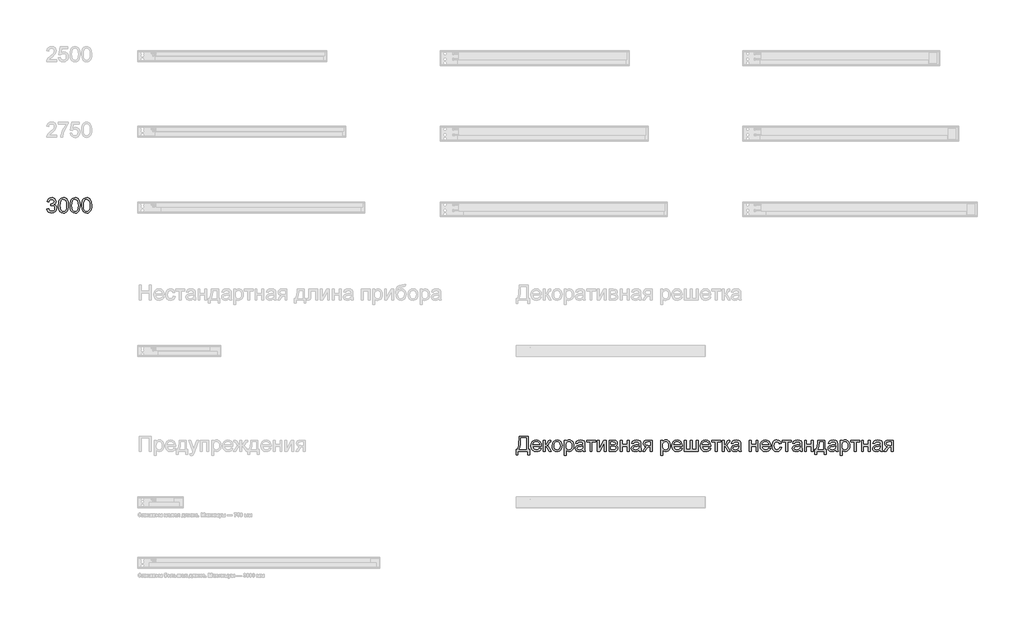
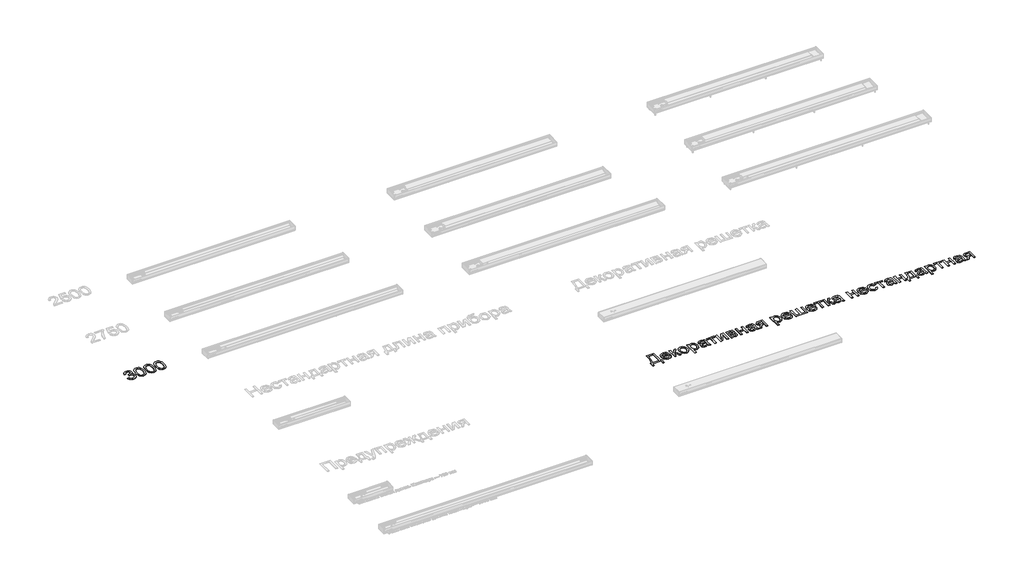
# One storey, part 2 of 17: 2 proxies.
"""IFC4 building model written with IfcOpenShell, lengths in millimetres."""

from ifc_helpers import new_model, si_unit, origin, origin_with_axes, place, context, project, spatial, polyline, outline, extrude, element, save

model = new_model("IFC4")

# Units and contexts
model_context = context("Model", 3, world=origin())
ifc_project = project(units=[si_unit("LENGTHUNIT", "METRE", prefix="MILLI")], contexts=[model_context])

# Site, building, storey
site = spatial("IfcSite", under=ifc_project)
building = spatial("IfcBuilding", under=site)
storey = spatial("IfcBuildingStorey", under=building, Name="Уровень 1", Elevation=0.0)

# Proxies
placement = place(None, origin())
element("IfcBuildingElementProxy", 1, Name="Текст модели 1", ObjectType="Текст модели 1", at=placement, inside=storey, context=model_context, shape_type="SweptSolid", body=[
    extrude(outline(polyline([(479.2731516, -6399.8750555), (504.3872291, -6396.7357958), (510.0096923, -6412.5179334), (518.2441176, -6423.1742485), (529.4951753, -6429.2443014), (544.1675355, -6431.2676524), (561.3844129, -6428.484012), (574.6772156, -6420.1330907), (583.1752897, -6407.6741538), (586.0079811, -6392.5664665), (583.1998152, -6378.2252001), (574.7753175, -6366.5939977), (562.022075, -6358.8868699), (546.2276747, -6356.3178273), (528.6183899, -6359.0646795), (531.414293, -6333.9506019), (535.4364695, -6334.2449075), (550.4828431, -6332.4422858), (563.9350614, -6327.0344204), (573.4264169, -6317.8864215), (576.590202, -6304.8633989), (574.2970709, -6294.0170114), (567.4176776, -6285.2185003), (556.920778, -6279.3875707), (543.7751281, -6277.4439275), (530.6049526, -6279.4059648), (519.8382729, -6285.2920767), (511.9778609, -6295.1022633), (507.5264888, -6308.8365244), (482.4124113, -6305.6972647), (489.8068394, -6283.1460984), (502.9647521, -6266.3093658), (520.9664444, -6255.8247289), (542.8922113, -6252.3298499), (558.6804802, -6254.052764), (573.1811622, -6259.221506), (585.4071072, -6267.3762236), (594.3711651, -6278.0570641), (599.871001, -6290.3627169), (601.7042796, -6303.3918709), (599.9629714, -6315.5319767), (594.7390471, -6326.5439111), (586.106083, -6335.924902), (574.1376554, -6343.1721773), (589.8584793, -6349.5242731), (601.5080758, -6360.3400037), (608.7185629, -6375.0307581), (611.1220586, -6393.0079249), (606.3150672, -6417.4843403), (591.894093, -6437.9385792), (570.1277416, -6451.7709423), (543.2846187, -6456.3817299), (519.004407, -6452.4453926), (499.2368812, -6440.6363805), (485.4903573, -6422.5733746), (479.2731516, -6399.8750555)])), origin_with_axes(), (0.0, 0.0, 1.0), 2.0),
    extrude(outline(polyline([(633.0968765, -6354.4048409), (634.9424178, -6322.2458231), (640.4790419, -6296.5983167), (649.6515663, -6277.0699141), (662.4048088, -6263.2682079), (678.8307398, -6255.0644394), (699.02133, -6252.3298499), (714.4968993, -6253.9485307), (728.3537878, -6258.8045731), (739.9420706, -6266.7079046), (748.611823, -6277.468453), (760.3840468, -6307.1933182), (764.9457836, -6354.4048409), (763.1186363, -6386.3799176), (757.6371946, -6411.9661104), (748.5198525, -6431.5129071), (735.7850041, -6445.3697956), (719.3222848, -6453.6287463), (699.02133, -6456.3817299), (672.9262338, -6451.599264), (653.109657, -6437.2518662), (644.3540655, -6422.1227191), (638.1000716, -6403.2718326), (633.0968765, -6354.4048409)]), holes=[polyline([(658.210954, -6354.3557899), (661.15401, -6393.8601849), (669.9831779, -6416.7240509), (683.1288278, -6427.631752), (699.02133, -6431.2676524), (714.9138322, -6427.6194893), (728.0594822, -6416.6749999), (736.8886501, -6393.7988712), (739.831706, -6354.3557899), (736.9867519, -6315.7404432), (728.4518896, -6292.6987676), (715.3307651, -6281.2576375), (698.7270244, -6277.4439275), (683.0062005, -6280.8039164), (670.3755853, -6290.883883), (661.2521118, -6315.3602985), (658.210954, -6354.3557899)])]), origin_with_axes(), (0.0, 0.0, 1.0), 2.0),
    extrude(outline(polyline([(786.9206014, -6354.4048409), (788.7661427, -6322.2458231), (794.3027668, -6296.5983167), (803.4752912, -6277.0699141), (816.2285337, -6263.2682079), (832.6544648, -6255.0644394), (852.8450549, -6252.3298499), (868.3206242, -6253.9485307), (882.1775127, -6258.8045731), (893.7657955, -6266.7079046), (902.4355479, -6277.468453), (914.2077717, -6307.1933182), (918.7695085, -6354.4048409), (916.9423612, -6386.3799176), (911.4609195, -6411.9661104), (902.3435774, -6431.5129071), (889.608729, -6445.3697956), (873.1460097, -6453.6287463), (852.8450549, -6456.3817299), (826.7499587, -6451.599264), (806.9333819, -6437.2518662), (798.1777905, -6422.1227191), (791.9237965, -6403.2718326), (786.9206014, -6354.4048409)]), holes=[polyline([(812.0346789, -6354.3557899), (814.9777349, -6393.8601849), (823.8069028, -6416.7240509), (836.9525527, -6427.631752), (852.8450549, -6431.2676524), (868.7375571, -6427.6194893), (881.8832071, -6416.6749999), (890.712375, -6393.7988712), (893.6554309, -6354.3557899), (890.8104768, -6315.7404432), (882.2756145, -6292.6987676), (869.1544901, -6281.2576375), (852.5507493, -6277.4439275), (836.8299254, -6280.8039164), (824.1993102, -6290.883883), (815.0758368, -6315.3602985), (812.0346789, -6354.3557899)])]), origin_with_axes(), (0.0, 0.0, 1.0), 2.0),
    extrude(outline(polyline([(940.7443263, -6354.4048409), (942.5898677, -6322.2458231), (948.1264917, -6296.5983167), (957.2990161, -6277.0699141), (970.0522586, -6263.2682079), (986.4781897, -6255.0644394), (1006.6687799, -6252.3298499), (1022.1443491, -6253.9485307), (1036.0012376, -6258.8045731), (1047.5895204, -6266.7079046), (1056.2592728, -6277.468453), (1068.0314966, -6307.1933182), (1072.5932334, -6354.4048409), (1070.7660861, -6386.3799176), (1065.2846444, -6411.9661104), (1056.1673023, -6431.5129071), (1043.4324539, -6445.3697956), (1026.9697346, -6453.6287463), (1006.6687799, -6456.3817299), (980.5736837, -6451.599264), (960.7571069, -6437.2518662), (952.0015154, -6422.1227191), (945.7475214, -6403.2718326), (940.7443263, -6354.4048409)]), holes=[polyline([(965.8584039, -6354.3557899), (968.8014598, -6393.8601849), (977.6306277, -6416.7240509), (990.7762777, -6427.631752), (1006.6687799, -6431.2676524), (1022.561282, -6427.6194893), (1035.706932, -6416.6749999), (1044.5360999, -6393.7988712), (1047.4791558, -6354.3557899), (1044.6342018, -6315.7404432), (1036.0993395, -6292.6987676), (1022.978215, -6281.2576375), (1006.3744743, -6277.4439275), (990.6536503, -6280.8039164), (978.0230352, -6290.883883), (968.8995617, -6315.3602985), (965.8584039, -6354.3557899)])]), origin_with_axes(), (0.0, 0.0, 1.0), 2.0),
])
element("IfcBuildingElementProxy", 2, Name="Текст модели 1", ObjectType="Текст модели 1", at=placement, inside=storey, context=model_context, shape_type="SweptSolid", body=[
    extrude(outline(polyline([(6722.8213885, -9407.3298499), (6842.1132568, -9407.3298499), (6842.1132568, -9583.1283927), (6860.9488149, -9583.1283927), (6860.9488149, -9655.3313656), (6835.8347374, -9655.3313656), (6835.8347374, -9608.2424702), (6707.12509, -9608.2424702), (6707.12509, -9655.3313656), (6682.0110125, -9655.3313656), (6682.0110125, -9583.1283927), (6697.7073109, -9583.1283927), (6708.6947198, -9560.3473002), (6716.5428691, -9528.3017127), (6721.2517586, -9486.9916303), (6722.8213885, -9436.417053), (6722.8213885, -9407.3298499)]), holes=[polyline([(6816.9991792, -9432.4439275), (6747.935466, -9432.4439275), (6747.935466, -9442.5484196), (6742.834169, -9511.3668782), (6735.2803254, -9551.1349219), (6722.8213885, -9583.1283927), (6816.9991792, -9583.1283927), (6816.9991792, -9432.4439275)])]), origin_with_axes(), (0.0, 0.0, 1.0), 2.0),
    extrude(outline(polyline([(6992.5034164, -9564.2928346), (7017.1269846, -9567.4320942), (7008.2548972, -9585.9856095), (6994.0975717, -9599.8547608), (6974.9738393, -9608.4999876), (6951.2025311, -9611.3817299), (6921.7351833, -9606.4091916), (6899.0613896, -9591.4915767), (6884.6036272, -9567.5976411), (6879.7843731, -9535.6961408), (6884.6526781, -9502.7216513), (6899.2575933, -9478.0612949), (6921.6248187, -9462.6838275), (6949.780054, -9457.558005), (6977.058504, -9462.6715648), (6998.8555122, -9478.012244), (7013.1477277, -9502.6235494), (7017.9117995, -9535.548988), (7017.7646467, -9542.3180167), (6904.8984506, -9542.3180167), (6909.2455895, -9561.1167867), (6919.3439503, -9574.936887), (6933.9182087, -9583.434961), (6951.6930404, -9586.2676524), (6976.3166086, -9581.0192026), (6985.4646076, -9574.2133857), (6992.5034164, -9564.2928346)]), holes=[polyline([(6904.8984506, -9517.2039392), (6992.797722, -9517.2039392), (6989.4009449, -9503.9356619), (6982.7422808, -9494.4443064), (6968.1005774, -9485.6151385), (6949.6819522, -9482.6720826), (6932.753249, -9485.020396), (6918.7553391, -9492.0653362), (6909.0248603, -9503.0466137), (6904.8984506, -9517.2039392)])]), origin_with_axes(), (0.0, 0.0, 1.0), 2.0),
    extrude(outline(polyline([(7043.0258771, -9460.6972647), (7068.1399546, -9460.6972647), (7068.1399546, -9523.4824586), (7084.9644245, -9518.9697728), (7098.7477366, -9492.6784728), (7110.2011294, -9469.9924165), (7120.3056215, -9462.6102511), (7138.6751958, -9460.6972647), (7143.4821872, -9460.6972647), (7143.4821872, -9485.9584951), (7136.7131585, -9485.8113423), (7124.4504253, -9488.4600926), (7115.8174612, -9504.9902569), (7105.6884436, -9522.8693219), (7091.4881986, -9531.6249134), (7107.3316498, -9541.3983117), (7122.8807955, -9561.9874407), (7149.7607066, -9608.2424702), (7121.2130638, -9608.2424702), (7094.8727129, -9562.9684594), (7081.6289611, -9543.8140702), (7068.1399546, -9539.178757), (7068.1399546, -9608.2424702), (7043.0258771, -9608.2424702), (7043.0258771, -9460.6972647)])), origin_with_axes(), (0.0, 0.0, 1.0), 2.0),
    extrude(outline(polyline([(7159.1784857, -9534.4698675), (7164.6108765, -9498.8956785), (7171.401365, -9485.0725126), (7180.9080489, -9473.8919656), (7201.0434567, -9461.6414952), (7225.1519901, -9457.558005), (7251.5352606, -9462.5305433), (7272.6087675, -9477.4481582), (7286.4227364, -9501.1336274), (7291.0273927, -9532.4097283), (7288.991779, -9557.7813232), (7282.8849379, -9577.095128), (7272.884679, -9591.5590218), (7259.168812, -9602.3808838), (7242.8777709, -9609.1315184), (7225.1519901, -9611.3817299), (7198.4498887, -9606.4275857), (7177.4009072, -9591.5651531), (7163.734091, -9567.3830433), (7159.1784857, -9534.4698675)]), holes=[polyline([(7184.2925632, -9534.4208165), (7187.198831, -9557.1497925), (7195.9176343, -9573.3427316), (7209.0387588, -9583.0364222), (7225.1519901, -9586.2676524), (7241.1916451, -9583.0180281), (7254.2882442, -9573.2691552), (7263.0070474, -9556.8616183), (7265.9133152, -9533.6360016), (7262.9886533, -9511.5692133), (7254.2146678, -9495.5970033), (7241.0996746, -9485.9033128), (7225.1519901, -9482.6720826), (7209.0387588, -9485.89105), (7195.9176343, -9495.5479524), (7187.198831, -9511.7041033), (7184.2925632, -9534.4208165)])]), origin_with_axes(), (0.0, 0.0, 1.0), 2.0),
    extrude(outline(polyline([(7319.28073, -9664.7491447), (7319.28073, -9460.6972647), (7344.3948075, -9460.6972647), (7344.3948075, -9485.3208329), (7361.7588377, -9464.498712), (7372.451941, -9459.2931818), (7385.2051835, -9457.558005), (7402.189069, -9459.9860262), (7417.0392388, -9467.2700897), (7429.1302937, -9478.9687371), (7437.8368343, -9494.6405101), (7443.0975468, -9513.1449745), (7444.8511177, -9533.341696), (7442.8706863, -9554.8198732), (7436.929392, -9574.0294447), (7427.2173074, -9589.9955233), (7413.9245046, -9601.7432217), (7398.442804, -9608.9721029), (7382.1640257, -9611.3817299), (7370.6186624, -9609.7691805), (7360.3118352, -9604.9315323), (7344.3948075, -9588.6220972), (7344.3948075, -9664.7491447), (7319.28073, -9664.7491447)]), holes=[polyline([(7344.3948075, -9535.6470899), (7347.1110029, -9558.161468), (7355.2595891, -9573.9068174), (7367.283199, -9583.1774436), (7381.6244654, -9586.2676524), (7396.1987238, -9583.067079), (7408.528902, -9573.465359), (7416.9350056, -9557.1436611), (7419.7370401, -9533.7831544), (7417.0024506, -9511.3914037), (7408.7986821, -9495.4253251), (7396.7934664, -9485.8603932), (7382.654535, -9482.6720826), (7368.4604214, -9486.0627283), (7355.9953531, -9496.2346654), (7347.2949439, -9512.869063), (7344.3948075, -9535.6470899)])]), origin_with_axes(), (0.0, 0.0, 1.0), 2.0),
    extrude(outline(polyline([(7567.2822457, -9589.4069121), (7542.9284576, -9606.4275857), (7516.024021, -9611.3817299), (7495.0363532, -9608.4018858), (7479.5546525, -9599.4623533), (7470.0081148, -9585.8875077), (7466.8259355, -9569.0017241), (7471.6329269, -9549.1360964), (7484.2635421, -9534.7151221), (7501.8483014, -9526.4745655), (7523.5778646, -9522.6976436), (7567.1350929, -9514.0646795), (7567.2822457, -9508.4728732), (7565.5532003, -9497.264735), (7560.3660641, -9489.9316206), (7548.7655186, -9484.4869671), (7532.6032362, -9482.6720826), (7517.6427018, -9483.8799618), (7507.1948531, -9487.5035994), (7500.0702051, -9494.2051831), (7495.0792727, -9504.6469004), (7469.9651952, -9501.5076407), (7480.8299768, -9476.9821744), (7490.0883403, -9468.7293549), (7502.7066928, -9462.6102511), (7535.8405978, -9457.558005), (7566.2767015, -9462.0216399), (7583.4690534, -9473.229778), (7591.1700499, -9490.2749771), (7592.3963232, -9512.249795), (7592.3963232, -9543.4952391), (7593.6716474, -9587.1260437), (7598.6748426, -9608.2424702), (7573.560765, -9608.2424702), (7567.2822457, -9589.4069121)]), holes=[polyline([(7567.2822457, -9539.178757), (7526.7661753, -9546.8797535), (7505.1592394, -9550.9509809), (7495.3735783, -9557.5728568), (7491.940013, -9567.2358905), (7493.8100799, -9574.703895), (7499.4202803, -9580.8229989), (7508.647987, -9584.906489), (7521.3705727, -9586.2676524), (7534.8595791, -9584.7654676), (7546.7789558, -9580.2589131), (7563.1619673, -9565.7153116), (7567.1350929, -9546.2911423), (7567.2822457, -9539.178757)])]), origin_with_axes(), (0.0, 0.0, 1.0), 2.0),
    extrude(outline(polyline([(7614.371141, -9460.6972647), (7733.6630093, -9460.6972647), (7733.6630093, -9485.8113423), (7686.574114, -9485.8113423), (7686.574114, -9608.2424702), (7661.4600364, -9608.2424702), (7661.4600364, -9485.8113423), (7614.371141, -9485.8113423), (7614.371141, -9460.6972647)])), origin_with_axes(), (0.0, 0.0, 1.0), 2.0),
    extrude(outline(polyline([(7755.6378272, -9460.6972647), (7780.7519047, -9460.6972647), (7780.7519047, -9573.2201043), (7842.457978, -9460.6972647), (7874.9296955, -9460.6972647), (7874.9296955, -9608.2424702), (7849.815618, -9608.2424702), (7849.815618, -9496.4063437), (7788.5019521, -9608.2424702), (7755.6378272, -9608.2424702), (7755.6378272, -9460.6972647)])), origin_with_axes(), (0.0, 0.0, 1.0), 2.0),
    extrude(outline(polyline([(7912.6008118, -9460.6972647), (7967.9302639, -9460.6972647), (7998.2682657, -9464.0572536), (8015.3379903, -9476.3690377), (8020.6906733, -9486.2098811), (8022.474901, -9497.8288208), (8018.1584189, -9515.2664273), (8005.1599218, -9527.7008388), (8014.4550735, -9532.9186317), (8022.0334426, -9541.3124726), (8027.073426, -9552.2201737), (8028.7534204, -9564.9795476), (8024.498252, -9584.1216741), (8014.3814971, -9597.5984179), (7998.3663676, -9605.5814571), (7976.4160752, -9608.2424702), (7912.6008118, -9608.2424702), (7912.6008118, -9460.6972647)]), holes=[polyline([(7937.7148893, -9517.2039392), (7962.5346613, -9517.2039392), (7983.0134257, -9515.9286149), (7992.970765, -9510.8273179), (7997.3608235, -9501.6057426), (7995.4355744, -9494.1132126), (7989.6598271, -9489.2939585), (7963.3194762, -9485.8113423), (7937.7148893, -9485.8113423), (7937.7148893, -9517.2039392)]), polyline([(7937.7148893, -9583.1283927), (7968.5188751, -9583.1283927), (7985.3065568, -9581.9940899), (7995.8402446, -9578.5911814), (8001.4933646, -9572.4046326), (8003.6393429, -9562.9194084), (7999.3473863, -9550.8283535), (7988.1637736, -9543.7895447), (7966.0663284, -9542.3180167), (7937.7148893, -9542.3180167), (7937.7148893, -9583.1283927)])]), origin_with_axes(), (0.0, 0.0, 1.0), 2.0),
    extrude(outline(polyline([(8060.1460173, -9460.6972647), (8085.2600949, -9460.6972647), (8085.2600949, -9517.2039392), (8151.1845484, -9517.2039392), (8151.1845484, -9460.6972647), (8176.2986259, -9460.6972647), (8176.2986259, -9608.2424702), (8151.1845484, -9608.2424702), (8151.1845484, -9542.3180167), (8085.2600949, -9542.3180167), (8085.2600949, -9608.2424702), (8060.1460173, -9608.2424702), (8060.1460173, -9460.6972647)])), origin_with_axes(), (0.0, 0.0, 1.0), 2.0),
    extrude(outline(polyline([(8308.147533, -9589.4069121), (8283.7937449, -9606.4275857), (8256.8893083, -9611.3817299), (8235.9016405, -9608.4018858), (8220.4199399, -9599.4623533), (8210.8734021, -9585.8875077), (8207.6912229, -9569.0017241), (8212.4982143, -9549.1360964), (8225.1288294, -9534.7151221), (8242.7135888, -9526.4745655), (8264.443152, -9522.6976436), (8308.0003802, -9514.0646795), (8308.147533, -9508.4728732), (8306.4184876, -9497.264735), (8301.2313515, -9489.9316206), (8289.6308059, -9484.4869671), (8273.4685236, -9482.6720826), (8258.5079891, -9483.8799618), (8248.0601405, -9487.5035994), (8240.9354925, -9494.2051831), (8235.9445601, -9504.6469004), (8210.8304826, -9501.5076407), (8221.6952641, -9476.9821744), (8230.9536277, -9468.7293549), (8243.5719801, -9462.6102511), (8276.7058852, -9457.558005), (8307.1419889, -9462.0216399), (8324.3343408, -9473.229778), (8332.0353372, -9490.2749771), (8333.2616105, -9512.249795), (8333.2616105, -9543.4952391), (8334.5369348, -9587.1260437), (8339.5401299, -9608.2424702), (8314.4260524, -9608.2424702), (8308.147533, -9589.4069121)]), holes=[polyline([(8308.147533, -9539.178757), (8267.6314626, -9546.8797535), (8246.0245268, -9550.9509809), (8236.2388657, -9557.5728568), (8232.8053004, -9567.2358905), (8234.6753672, -9574.703895), (8240.2855676, -9580.8229989), (8249.5132743, -9584.906489), (8262.23586, -9586.2676524), (8275.7248665, -9584.7654676), (8287.6442431, -9580.2589131), (8304.0272547, -9565.7153116), (8308.0003802, -9546.2911423), (8308.147533, -9539.178757)])]), origin_with_axes(), (0.0, 0.0, 1.0), 2.0),
    extrude(outline(polyline([(8480.8068161, -9460.6972647), (8480.8068161, -9608.2424702), (8455.6927385, -9608.2424702), (8455.6927385, -9551.7357958), (8442.0075283, -9551.7357958), (8423.3681739, -9554.9241064), (8405.8569909, -9576.359364), (8385.8442104, -9608.2424702), (8356.8060582, -9608.2424702), (8382.0182376, -9567.9226036), (8393.1527994, -9553.4525784), (8403.4044443, -9547.0269063), (8386.2366179, -9541.7661937), (8374.1700884, -9531.7720662), (8367.0331777, -9518.4792634), (8364.6542075, -9503.3225252), (8367.9038318, -9486.1301733), (8377.6527046, -9472.5185395), (8393.5574696, -9463.6525834), (8415.27477, -9460.6972647), (8480.8068161, -9460.6972647)]), holes=[polyline([(8455.6927385, -9485.8113423), (8422.583359, -9485.8113423), (8405.4829776, -9487.2644761), (8395.7770243, -9491.6238778), (8389.768285, -9505.2355116), (8391.9817083, -9514.8065748), (8398.6219784, -9521.4468449), (8410.8908429, -9525.3279999), (8429.9900498, -9526.6217183), (8455.6927385, -9526.6217183), (8455.6927385, -9485.8113423)])]), origin_with_axes(), (0.0, 0.0, 1.0), 2.0),
    extrude(outline(polyline([(8596.9594247, -9664.7491447), (8596.9594247, -9460.6972647), (8622.0735022, -9460.6972647), (8622.0735022, -9485.3208329), (8639.4375324, -9464.498712), (8650.1306357, -9459.2931818), (8662.8838782, -9457.558005), (8679.8677637, -9459.9860262), (8694.7179335, -9467.2700897), (8706.8089884, -9478.9687371), (8715.515529, -9494.6405101), (8720.7762415, -9513.1449745), (8722.5298124, -9533.341696), (8720.549381, -9554.8198732), (8714.6080867, -9574.0294447), (8704.8960021, -9589.9955233), (8691.6031993, -9601.7432217), (8676.1214987, -9608.9721029), (8659.8427204, -9611.3817299), (8648.2973571, -9609.7691805), (8637.9905299, -9604.9315323), (8622.0735022, -9588.6220972), (8622.0735022, -9664.7491447), (8596.9594247, -9664.7491447)]), holes=[polyline([(8622.0735022, -9535.6470899), (8624.7896976, -9558.161468), (8632.9382838, -9573.9068174), (8644.9618937, -9583.1774436), (8659.3031601, -9586.2676524), (8673.8774185, -9583.067079), (8686.2075967, -9573.465359), (8694.6137003, -9557.1436611), (8697.4157348, -9533.7831544), (8694.6811453, -9511.3914037), (8686.4773768, -9495.4253251), (8674.4721611, -9485.8603932), (8660.3332297, -9482.6720826), (8646.1391161, -9486.0627283), (8633.6740478, -9496.2346654), (8624.9736386, -9512.869063), (8622.0735022, -9535.6470899)])]), origin_with_axes(), (0.0, 0.0, 1.0), 2.0),
    extrude(outline(polyline([(8854.0844139, -9564.2928346), (8878.7079821, -9567.4320942), (8869.8358946, -9585.9856095), (8855.6785692, -9599.8547608), (8836.5548368, -9608.4999876), (8812.7835285, -9611.3817299), (8783.3161807, -9606.4091916), (8760.6423871, -9591.4915767), (8746.1846247, -9567.5976411), (8741.3653705, -9535.6961408), (8746.2336756, -9502.7216513), (8760.8385908, -9478.0612949), (8783.2058161, -9462.6838275), (8811.3610515, -9457.558005), (8838.6395014, -9462.6715648), (8860.4365096, -9478.012244), (8874.7287251, -9502.6235494), (8879.492797, -9535.548988), (8879.3456442, -9542.3180167), (8766.4794481, -9542.3180167), (8770.826587, -9561.1167867), (8780.9249477, -9574.936887), (8795.4992061, -9583.434961), (8813.2740379, -9586.2676524), (8837.8976061, -9581.0192026), (8847.045605, -9574.2133857), (8854.0844139, -9564.2928346)]), holes=[polyline([(8766.4794481, -9517.2039392), (8854.3787194, -9517.2039392), (8850.9819424, -9503.9356619), (8844.3232782, -9494.4443064), (8829.6815748, -9485.6151385), (8811.2629496, -9482.6720826), (8794.3342465, -9485.020396), (8780.3363366, -9492.0653362), (8770.6058578, -9503.0466137), (8766.4794481, -9517.2039392)])]), origin_with_axes(), (0.0, 0.0, 1.0), 2.0),
    extrude(outline(polyline([(8904.6068745, -9460.6972647), (8929.7209521, -9460.6972647), (8929.7209521, -9583.1283927), (8986.2276265, -9583.1283927), (8986.2276265, -9460.6972647), (9011.3417041, -9460.6972647), (9011.3417041, -9583.1283927), (9067.8483785, -9583.1283927), (9067.8483785, -9460.6972647), (9092.9624561, -9460.6972647), (9092.9624561, -9608.2424702), (8904.6068745, -9608.2424702), (8904.6068745, -9460.6972647)])), origin_with_axes(), (0.0, 0.0, 1.0), 2.0),
    extrude(outline(polyline([(9230.7955769, -9564.2928346), (9255.4191451, -9567.4320942), (9246.5470577, -9585.9856095), (9232.3897322, -9599.8547608), (9213.2659998, -9608.4999876), (9189.4946916, -9611.3817299), (9160.0273438, -9606.4091916), (9137.3535501, -9591.4915767), (9122.8957877, -9567.5976411), (9118.0765336, -9535.6961408), (9122.9448387, -9502.7216513), (9137.5497539, -9478.0612949), (9159.9169792, -9462.6838275), (9188.0722145, -9457.558005), (9215.3506645, -9462.6715648), (9237.1476727, -9478.012244), (9251.4398882, -9502.6235494), (9256.20396, -9535.548988), (9256.0568072, -9542.3180167), (9143.1906111, -9542.3180167), (9147.53775, -9561.1167867), (9157.6361108, -9574.936887), (9172.2103692, -9583.434961), (9189.9852009, -9586.2676524), (9214.6087691, -9581.0192026), (9223.7567681, -9574.2133857), (9230.7955769, -9564.2928346)]), holes=[polyline([(9143.1906111, -9517.2039392), (9231.0898825, -9517.2039392), (9227.6931054, -9503.9356619), (9221.0344413, -9494.4443064), (9206.3927379, -9485.6151385), (9187.9741127, -9482.6720826), (9171.0454095, -9485.020396), (9157.0474996, -9492.0653362), (9147.3170208, -9503.0466137), (9143.1906111, -9517.2039392)])]), origin_with_axes(), (0.0, 0.0, 1.0), 2.0),
    extrude(outline(polyline([(9268.7609988, -9460.6972647), (9388.0528671, -9460.6972647), (9388.0528671, -9485.8113423), (9340.9639717, -9485.8113423), (9340.9639717, -9608.2424702), (9315.8498942, -9608.2424702), (9315.8498942, -9485.8113423), (9268.7609988, -9485.8113423), (9268.7609988, -9460.6972647)])), origin_with_axes(), (0.0, 0.0, 1.0), 2.0),
    extrude(outline(polyline([(9410.027685, -9460.6972647), (9435.1417625, -9460.6972647), (9435.1417625, -9523.4824586), (9451.9662324, -9518.9697728), (9465.7495445, -9492.6784728), (9477.2029373, -9469.9924165), (9487.3074294, -9462.6102511), (9505.6770037, -9460.6972647), (9510.4839951, -9460.6972647), (9510.4839951, -9485.9584951), (9503.7149664, -9485.8113423), (9491.4522332, -9488.4600926), (9482.8192691, -9504.9902569), (9472.6902515, -9522.8693219), (9458.4900065, -9531.6249134), (9474.3334577, -9541.3983117), (9489.8826034, -9561.9874407), (9516.7625145, -9608.2424702), (9488.2148717, -9608.2424702), (9461.8745208, -9562.9684594), (9448.630769, -9543.8140702), (9435.1417625, -9539.178757), (9435.1417625, -9608.2424702), (9410.027685, -9608.2424702), (9410.027685, -9460.6972647)])), origin_with_axes(), (0.0, 0.0, 1.0), 2.0),
    extrude(outline(polyline([(9626.6366037, -9589.4069121), (9602.2828156, -9606.4275857), (9575.3783791, -9611.3817299), (9554.3907112, -9608.4018858), (9538.9090106, -9599.4623533), (9529.3624728, -9585.8875077), (9526.1802936, -9569.0017241), (9530.987285, -9549.1360964), (9543.6179001, -9534.7151221), (9561.2026595, -9526.4745655), (9582.9322227, -9522.6976436), (9626.4894509, -9514.0646795), (9626.6366037, -9508.4728732), (9624.9075583, -9497.264735), (9619.7204222, -9489.9316206), (9608.1198766, -9484.4869671), (9591.9575943, -9482.6720826), (9576.9970598, -9483.8799618), (9566.5492112, -9487.5035994), (9559.4245632, -9494.2051831), (9554.4336308, -9504.6469004), (9529.3195533, -9501.5076407), (9540.1843349, -9476.9821744), (9549.4426984, -9468.7293549), (9562.0610508, -9462.6102511), (9595.1949559, -9457.558005), (9625.6310596, -9462.0216399), (9642.8234115, -9473.229778), (9650.5244079, -9490.2749771), (9651.7506813, -9512.249795), (9651.7506813, -9543.4952391), (9653.0260055, -9587.1260437), (9658.0292006, -9608.2424702), (9632.9151231, -9608.2424702), (9626.6366037, -9589.4069121)]), holes=[polyline([(9626.6366037, -9539.178757), (9586.1205333, -9546.8797535), (9564.5135975, -9550.9509809), (9554.7279364, -9557.5728568), (9551.2943711, -9567.2358905), (9553.1644379, -9574.703895), (9558.7746383, -9580.8229989), (9568.0023451, -9584.906489), (9580.7249307, -9586.2676524), (9594.2139372, -9584.7654676), (9606.1333139, -9580.2589131), (9622.5163254, -9565.7153116), (9626.4894509, -9546.2911423), (9626.6366037, -9539.178757)])]), origin_with_axes(), (0.0, 0.0, 1.0), 2.0),
    extrude(outline(polyline([(9764.7640302, -9460.6972647), (9789.8781077, -9460.6972647), (9789.8781077, -9517.2039392), (9855.8025613, -9517.2039392), (9855.8025613, -9460.6972647), (9880.9166388, -9460.6972647), (9880.9166388, -9608.2424702), (9855.8025613, -9608.2424702), (9855.8025613, -9542.3180167), (9789.8781077, -9542.3180167), (9789.8781077, -9608.2424702), (9764.7640302, -9608.2424702), (9764.7640302, -9460.6972647)])), origin_with_axes(), (0.0, 0.0, 1.0), 2.0),
    extrude(outline(polyline([(10021.8890193, -9564.2928346), (10046.5125876, -9567.4320942), (10037.6405001, -9585.9856095), (10023.4831747, -9599.8547608), (10004.3594423, -9608.4999876), (9980.588134, -9611.3817299), (9951.1207862, -9606.4091916), (9928.4469926, -9591.4915767), (9913.9892302, -9567.5976411), (9909.169976, -9535.6961408), (9914.0382811, -9502.7216513), (9928.6431963, -9478.0612949), (9951.0104216, -9462.6838275), (9979.165657, -9457.558005), (10006.4441069, -9462.6715648), (10028.2411151, -9478.012244), (10042.5333306, -9502.6235494), (10047.2974025, -9535.548988), (10047.1502497, -9542.3180167), (9934.2840536, -9542.3180167), (9938.6311925, -9561.1167867), (9948.7295532, -9574.936887), (9963.3038116, -9583.434961), (9981.0786433, -9586.2676524), (10005.7022116, -9581.0192026), (10014.8502105, -9574.2133857), (10021.8890193, -9564.2928346)]), holes=[polyline([(9934.2840536, -9517.2039392), (10022.1833249, -9517.2039392), (10018.7865478, -9503.9356619), (10012.1278837, -9494.4443064), (9997.4861803, -9485.6151385), (9979.0675551, -9482.6720826), (9962.138852, -9485.020396), (9948.140942, -9492.0653362), (9938.4104633, -9503.0466137), (9934.2840536, -9517.2039392)])]), origin_with_axes(), (0.0, 0.0, 1.0), 2.0),
    extrude(outline(polyline([(10166.5892708, -9554.8750555), (10191.7033483, -9558.0143152), (10184.7013277, -9580.3508836), (10171.543415, -9597.2305359), (10153.4681463, -9607.8439314), (10131.7140576, -9611.3817299), (10104.9996934, -9606.4459798), (10084.1101275, -9591.6387295), (10070.6272523, -9567.6099039), (10066.1329606, -9535.0094277), (10068.0520784, -9512.6605965), (10073.8094316, -9493.2916095), (10083.4969908, -9477.6504933), (10097.2067265, -9466.4852748), (10113.6081321, -9459.7898225), (10131.3707011, -9457.558005), (10152.5913609, -9460.6236883), (10169.5568522, -9469.8207382), (10181.7276149, -9484.6586453), (10188.5640886, -9504.6469004), (10163.4500111, -9507.7861601), (10158.8944057, -9496.829408), (10151.8004146, -9488.9751274), (10142.5604451, -9484.2478438), (10131.5669048, -9482.6720826), (10115.3371775, -9485.7745541), (10102.4551763, -9495.0819685), (10094.0490727, -9511.0970981), (10091.2470382, -9534.3227147), (10093.987759, -9557.861031), (10102.2099216, -9573.9313428), (10114.8589309, -9583.183575), (10130.8801918, -9586.2676524), (10143.8848203, -9584.3424033), (10154.5472668, -9578.566656), (10162.3034455, -9568.7932576), (10166.5892708, -9554.8750555)])), origin_with_axes(), (0.0, 0.0, 1.0), 2.0),
    extrude(outline(polyline([(10201.1211274, -9460.6972647), (10320.4129957, -9460.6972647), (10320.4129957, -9485.8113423), (10273.3241003, -9485.8113423), (10273.3241003, -9608.2424702), (10248.2100228, -9608.2424702), (10248.2100228, -9485.8113423), (10201.1211274, -9485.8113423), (10201.1211274, -9460.6972647)])), origin_with_axes(), (0.0, 0.0, 1.0), 2.0),
    extrude(outline(polyline([(10436.5656043, -9589.4069121), (10412.2118162, -9606.4275857), (10385.3073796, -9611.3817299), (10364.3197118, -9608.4018858), (10348.8380112, -9599.4623533), (10339.2914734, -9585.8875077), (10336.1092942, -9569.0017241), (10340.9162856, -9549.1360964), (10353.5469007, -9534.7151221), (10371.1316601, -9526.4745655), (10392.8612233, -9522.6976436), (10436.4184515, -9514.0646795), (10436.5656043, -9508.4728732), (10434.8365589, -9497.264735), (10429.6494228, -9489.9316206), (10418.0488772, -9484.4869671), (10401.8865949, -9482.6720826), (10386.9260604, -9483.8799618), (10376.4782118, -9487.5035994), (10369.3535638, -9494.2051831), (10364.3626314, -9504.6469004), (10339.2485538, -9501.5076407), (10350.1133354, -9476.9821744), (10359.371699, -9468.7293549), (10371.9900514, -9462.6102511), (10405.1239565, -9457.558005), (10435.5600602, -9462.0216399), (10452.7524121, -9473.229778), (10460.4534085, -9490.2749771), (10461.6796818, -9512.249795), (10461.6796818, -9543.4952391), (10462.9550061, -9587.1260437), (10467.9582012, -9608.2424702), (10442.8441237, -9608.2424702), (10436.5656043, -9589.4069121)]), holes=[polyline([(10436.5656043, -9539.178757), (10396.0495339, -9546.8797535), (10374.4425981, -9550.9509809), (10364.656937, -9557.5728568), (10361.2233717, -9567.2358905), (10363.0934385, -9574.703895), (10368.7036389, -9580.8229989), (10377.9313456, -9584.906489), (10390.6539313, -9586.2676524), (10404.1429378, -9584.7654676), (10416.0623144, -9580.2589131), (10432.445326, -9565.7153116), (10436.4184515, -9546.2911423), (10436.5656043, -9539.178757)])]), origin_with_axes(), (0.0, 0.0, 1.0), 2.0),
    extrude(outline(polyline([(10496.2115385, -9460.6972647), (10521.325616, -9460.6972647), (10521.325616, -9517.2039392), (10587.2500695, -9517.2039392), (10587.2500695, -9460.6972647), (10612.3641471, -9460.6972647), (10612.3641471, -9608.2424702), (10587.2500695, -9608.2424702), (10587.2500695, -9542.3180167), (10521.325616, -9542.3180167), (10521.325616, -9608.2424702), (10496.2115385, -9608.2424702), (10496.2115385, -9460.6972647)])), origin_with_axes(), (0.0, 0.0, 1.0), 2.0),
    extrude(outline(polyline([(10672.0100812, -9460.6972647), (10766.187872, -9460.6972647), (10766.187872, -9583.1283927), (10785.0234301, -9583.1283927), (10785.0234301, -9649.0528462), (10759.9093526, -9649.0528462), (10759.9093526, -9608.2424702), (10656.3137828, -9608.2424702), (10656.3137828, -9649.0528462), (10631.1997052, -9649.0528462), (10631.1997052, -9583.1283927), (10646.8960037, -9583.1283927), (10658.3064769, -9562.5086069), (10666.2956476, -9535.2301569), (10670.8635157, -9501.2930429), (10672.0100812, -9460.6972647)]), holes=[polyline([(10693.9848991, -9485.8113423), (10688.0987871, -9543.0292552), (10675.1493409, -9583.1283927), (10741.0737944, -9583.1283927), (10741.0737944, -9485.8113423), (10693.9848991, -9485.8113423)])]), origin_with_axes(), (0.0, 0.0, 1.0), 2.0),
    extrude(outline(polyline([(10907.4545581, -9589.4069121), (10883.1007701, -9606.4275857), (10856.1963335, -9611.3817299), (10835.2086656, -9608.4018858), (10819.726965, -9599.4623533), (10810.1804272, -9585.8875077), (10806.998248, -9569.0017241), (10811.8052394, -9549.1360964), (10824.4358546, -9534.7151221), (10842.0206139, -9526.4745655), (10863.7501771, -9522.6976436), (10907.3074053, -9514.0646795), (10907.4545581, -9508.4728732), (10905.7255128, -9497.264735), (10900.5383766, -9489.9316206), (10888.937831, -9484.4869671), (10872.7755487, -9482.6720826), (10857.8150142, -9483.8799618), (10847.3671656, -9487.5035994), (10840.2425176, -9494.2051831), (10835.2515852, -9504.6469004), (10810.1375077, -9501.5076407), (10821.0022893, -9476.9821744), (10830.2606528, -9468.7293549), (10842.8790052, -9462.6102511), (10876.0129103, -9457.558005), (10906.449014, -9462.0216399), (10923.6413659, -9473.229778), (10931.3423624, -9490.2749771), (10932.5686357, -9512.249795), (10932.5686357, -9543.4952391), (10933.8439599, -9587.1260437), (10938.8471551, -9608.2424702), (10913.7330775, -9608.2424702), (10907.4545581, -9589.4069121)]), holes=[polyline([(10907.4545581, -9539.178757), (10866.9384877, -9546.8797535), (10845.3315519, -9550.9509809), (10835.5458908, -9557.5728568), (10832.1123255, -9567.2358905), (10833.9823923, -9574.703895), (10839.5925928, -9580.8229989), (10848.8202995, -9584.906489), (10861.5428851, -9586.2676524), (10875.0318916, -9584.7654676), (10886.9512683, -9580.2589131), (10903.3342798, -9565.7153116), (10907.3074053, -9546.2911423), (10907.4545581, -9539.178757)])]), origin_with_axes(), (0.0, 0.0, 1.0), 2.0),
    extrude(outline(polyline([(10967.1004923, -9664.7491447), (10967.1004923, -9460.6972647), (10992.2145698, -9460.6972647), (10992.2145698, -9485.3208329), (11009.5786, -9464.498712), (11020.2717033, -9459.2931818), (11033.0249458, -9457.558005), (11050.0088313, -9459.9860262), (11064.8590011, -9467.2700897), (11076.950056, -9478.9687371), (11085.6565966, -9494.6405101), (11090.9173091, -9513.1449745), (11092.67088, -9533.341696), (11090.6904486, -9554.8198732), (11084.7491543, -9574.0294447), (11075.0370697, -9589.9955233), (11061.7442669, -9601.7432217), (11046.2625663, -9608.9721029), (11029.983788, -9611.3817299), (11018.4384247, -9609.7691805), (11008.1315975, -9604.9315323), (10992.2145698, -9588.6220972), (10992.2145698, -9664.7491447), (10967.1004923, -9664.7491447)]), holes=[polyline([(10992.2145698, -9535.6470899), (10994.9307652, -9558.161468), (11003.0793514, -9573.9068174), (11015.1029613, -9583.1774436), (11029.4442277, -9586.2676524), (11044.0184861, -9583.067079), (11056.3486643, -9573.465359), (11064.7547679, -9557.1436611), (11067.5568024, -9533.7831544), (11064.8222129, -9511.3914037), (11056.6184444, -9495.4253251), (11044.6132287, -9485.8603932), (11030.4742973, -9482.6720826), (11016.2801837, -9486.0627283), (11003.8151154, -9496.2346654), (10995.1147062, -9512.869063), (10992.2145698, -9535.6470899)])]), origin_with_axes(), (0.0, 0.0, 1.0), 2.0),
    extrude(outline(polyline([(11108.3671784, -9460.6972647), (11227.6590467, -9460.6972647), (11227.6590467, -9485.8113423), (11180.5701514, -9485.8113423), (11180.5701514, -9608.2424702), (11155.4560738, -9608.2424702), (11155.4560738, -9485.8113423), (11108.3671784, -9485.8113423), (11108.3671784, -9460.6972647)])), origin_with_axes(), (0.0, 0.0, 1.0), 2.0),
    extrude(outline(polyline([(11249.6338646, -9460.6972647), (11274.7479421, -9460.6972647), (11274.7479421, -9517.2039392), (11340.6723957, -9517.2039392), (11340.6723957, -9460.6972647), (11365.7864732, -9460.6972647), (11365.7864732, -9608.2424702), (11340.6723957, -9608.2424702), (11340.6723957, -9542.3180167), (11274.7479421, -9542.3180167), (11274.7479421, -9608.2424702), (11249.6338646, -9608.2424702), (11249.6338646, -9460.6972647)])), origin_with_axes(), (0.0, 0.0, 1.0), 2.0),
    extrude(outline(polyline([(11497.6353803, -9589.4069121), (11473.2815922, -9606.4275857), (11446.3771556, -9611.3817299), (11425.3894878, -9608.4018858), (11409.9077871, -9599.4623533), (11400.3612494, -9585.8875077), (11397.1790701, -9569.0017241), (11401.9860615, -9549.1360964), (11414.6166767, -9534.7151221), (11432.2014361, -9526.4745655), (11453.9309992, -9522.6976436), (11497.4882275, -9514.0646795), (11497.6353803, -9508.4728732), (11495.9063349, -9497.264735), (11490.7191988, -9489.9316206), (11479.1186532, -9484.4869671), (11462.9563708, -9482.6720826), (11447.9958364, -9483.8799618), (11437.5479877, -9487.5035994), (11430.4233397, -9494.2051831), (11425.4324073, -9504.6469004), (11400.3183298, -9501.5076407), (11411.1831114, -9476.9821744), (11420.4414749, -9468.7293549), (11433.0598274, -9462.6102511), (11466.1937324, -9457.558005), (11496.6298361, -9462.0216399), (11513.822188, -9473.229778), (11521.5231845, -9490.2749771), (11522.7494578, -9512.249795), (11522.7494578, -9543.4952391), (11524.024782, -9587.1260437), (11529.0279772, -9608.2424702), (11503.9138996, -9608.2424702), (11497.6353803, -9589.4069121)]), holes=[polyline([(11497.6353803, -9539.178757), (11457.1193099, -9546.8797535), (11435.512374, -9550.9509809), (11425.7267129, -9557.5728568), (11422.2931476, -9567.2358905), (11424.1632145, -9574.703895), (11429.7734149, -9580.8229989), (11439.0011216, -9584.906489), (11451.7237073, -9586.2676524), (11465.2127138, -9584.7654676), (11477.1320904, -9580.2589131), (11493.5151019, -9565.7153116), (11497.4882275, -9546.2911423), (11497.6353803, -9539.178757)])]), origin_with_axes(), (0.0, 0.0, 1.0), 2.0),
    extrude(outline(polyline([(11670.2946633, -9460.6972647), (11670.2946633, -9608.2424702), (11645.1805858, -9608.2424702), (11645.1805858, -9551.7357958), (11631.4953756, -9551.7357958), (11612.8560211, -9554.9241064), (11595.3448382, -9576.359364), (11575.3320576, -9608.2424702), (11546.2939055, -9608.2424702), (11571.5060849, -9567.9226036), (11582.6406466, -9553.4525784), (11592.8922915, -9547.0269063), (11575.7244651, -9541.7661937), (11563.6579357, -9531.7720662), (11556.521025, -9518.4792634), (11554.1420547, -9503.3225252), (11557.391679, -9486.1301733), (11567.1405519, -9472.5185395), (11583.0453168, -9463.6525834), (11604.7626173, -9460.6972647), (11670.2946633, -9460.6972647)]), holes=[polyline([(11645.1805858, -9485.8113423), (11612.0712062, -9485.8113423), (11594.9708248, -9487.2644761), (11585.2648715, -9491.6238778), (11579.2561323, -9505.2355116), (11581.4695556, -9514.8065748), (11588.1098256, -9521.4468449), (11600.3786901, -9525.3279999), (11619.4778971, -9526.6217183), (11645.1805858, -9526.6217183), (11645.1805858, -9485.8113423)])]), origin_with_axes(), (0.0, 0.0, 1.0), 2.0),
])

save(model, "model.ifc")
